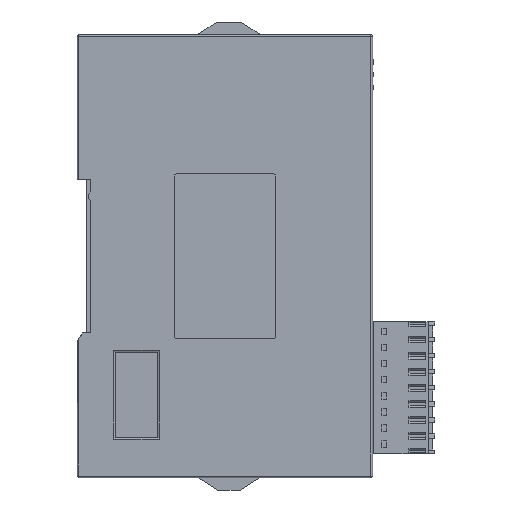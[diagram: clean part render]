
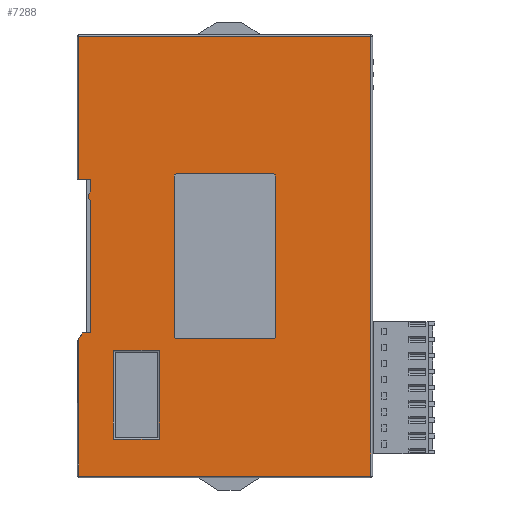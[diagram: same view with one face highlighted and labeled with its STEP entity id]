
A CAD part, left-side view. The second image highlights one B-rep face of the part: STEP entity #7288.
In plain terms, the highlighted planar face has unit normal (-1, 0, 0).
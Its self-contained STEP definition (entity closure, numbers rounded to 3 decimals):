
#7288=ADVANCED_FACE('',(#19565,#19567,#19569),#19571,.T.);
#19565=FACE_BOUND('',#19566,.T.);
#19566=EDGE_LOOP('',(#28255,#28256,#28257,#28258,#28259,#28260,#28261,#28262,#28263,
#28264,#28265));
#19567=FACE_BOUND('',#19568,.T.);
#19568=EDGE_LOOP('',(#28266,#28267,#28268,#28269,#28270,#28271,#28272,#28273));
#19569=FACE_BOUND('',#19570,.T.);
#19570=EDGE_LOOP('',(#28274,#28275,#28276,#28277));
#19571=PLANE('',#19572);
#19572=AXIS2_PLACEMENT_3D('',#19573,#19574,#19575);
#19573=CARTESIAN_POINT('',(-345.903,-44.348,173.566));
#19574=DIRECTION('',(-1.,0.,0.));
#19575=DIRECTION('',(0.,0.,1.));
#28255=ORIENTED_EDGE('',*,*,#34578,.F.);
#28256=ORIENTED_EDGE('',*,*,#34579,.F.);
#28257=ORIENTED_EDGE('',*,*,#34580,.T.);
#28258=ORIENTED_EDGE('',*,*,#34581,.T.);
#28259=ORIENTED_EDGE('',*,*,#34582,.T.);
#28260=ORIENTED_EDGE('',*,*,#34583,.T.);
#28261=ORIENTED_EDGE('',*,*,#34584,.T.);
#28262=ORIENTED_EDGE('',*,*,#34585,.F.);
#28263=ORIENTED_EDGE('',*,*,#34586,.F.);
#28264=ORIENTED_EDGE('',*,*,#34587,.F.);
#28265=ORIENTED_EDGE('',*,*,#33933,.F.);
#28266=ORIENTED_EDGE('',*,*,#34588,.F.);
#28267=ORIENTED_EDGE('',*,*,#34589,.F.);
#28268=ORIENTED_EDGE('',*,*,#34590,.F.);
#28269=ORIENTED_EDGE('',*,*,#34591,.F.);
#28270=ORIENTED_EDGE('',*,*,#34592,.F.);
#28271=ORIENTED_EDGE('',*,*,#34593,.F.);
#28272=ORIENTED_EDGE('',*,*,#34594,.F.);
#28273=ORIENTED_EDGE('',*,*,#34595,.F.);
#28274=ORIENTED_EDGE('',*,*,#34596,.F.);
#28275=ORIENTED_EDGE('',*,*,#34597,.F.);
#28276=ORIENTED_EDGE('',*,*,#34598,.F.);
#28277=ORIENTED_EDGE('',*,*,#34599,.F.);
#33933=EDGE_CURVE('',#40744,#40742,#40746,.T.);
#34578=EDGE_CURVE('',#41783,#40744,#41784,.T.);
#34579=EDGE_CURVE('',#41785,#41783,#41786,.T.);
#34580=EDGE_CURVE('',#41785,#41787,#41788,.T.);
#34581=EDGE_CURVE('',#41787,#41789,#41790,.T.);
#34582=EDGE_CURVE('',#41789,#41791,#41792,.T.);
#34583=EDGE_CURVE('',#41791,#41793,#41794,.T.);
#34584=EDGE_CURVE('',#41793,#41795,#41796,.T.);
#34585=EDGE_CURVE('',#41797,#41795,#41798,.T.);
#34586=EDGE_CURVE('',#41799,#41797,#41800,.T.);
#34587=EDGE_CURVE('',#40742,#41799,#41801,.T.);
#34588=EDGE_CURVE('',#41802,#41803,#41804,.T.);
#34589=EDGE_CURVE('',#41805,#41802,#41806,.T.);
#34590=EDGE_CURVE('',#41807,#41805,#41808,.T.);
#34591=EDGE_CURVE('',#41809,#41807,#41810,.T.);
#34592=EDGE_CURVE('',#41811,#41809,#41812,.T.);
#34593=EDGE_CURVE('',#41813,#41811,#41814,.T.);
#34594=EDGE_CURVE('',#41815,#41813,#41816,.T.);
#34595=EDGE_CURVE('',#41803,#41815,#41817,.T.);
#34596=EDGE_CURVE('',#41818,#41819,#41820,.T.);
#34597=EDGE_CURVE('',#41821,#41818,#41822,.T.);
#34598=EDGE_CURVE('',#41823,#41821,#41824,.T.);
#34599=EDGE_CURVE('',#41819,#41823,#41825,.T.);
#40742=VERTEX_POINT('',#51021);
#40744=VERTEX_POINT('',#51026);
#40746=LINE('',#51031,#51032);
#41783=VERTEX_POINT('',#55268);
#41784=LINE('',#55269,#55270);
#41785=VERTEX_POINT('',#55272);
#41786=LINE('',#55273,#55274);
#41787=VERTEX_POINT('',#55276);
#41788=LINE('',#55277,#55278);
#41789=VERTEX_POINT('',#55280);
#41790=LINE('',#55281,#55282);
#41791=VERTEX_POINT('',#55284);
#41792=CIRCLE('',#55285,2.);
#41793=VERTEX_POINT('',#55289);
#41794=LINE('',#55290,#55291);
#41795=VERTEX_POINT('',#55293);
#41796=LINE('',#55294,#55295);
#41797=VERTEX_POINT('',#55297);
#41798=LINE('',#55298,#55299);
#41799=VERTEX_POINT('',#55301);
#41800=LINE('',#55302,#55303);
#41801=LINE('',#55305,#55306);
#41802=VERTEX_POINT('',#55308);
#41803=VERTEX_POINT('',#55309);
#41804=LINE('',#55310,#55311);
#41805=VERTEX_POINT('',#55313);
#41806=CIRCLE('',#55314,0.5);
#41807=VERTEX_POINT('',#55318);
#41808=LINE('',#55319,#55320);
#41809=VERTEX_POINT('',#55322);
#41810=CIRCLE('',#55323,0.5);
#41811=VERTEX_POINT('',#55327);
#41812=LINE('',#55328,#55329);
#41813=VERTEX_POINT('',#55331);
#41814=CIRCLE('',#55332,0.5);
#41815=VERTEX_POINT('',#55336);
#41816=LINE('',#55337,#55338);
#41817=CIRCLE('',#55340,0.5);
#41818=VERTEX_POINT('',#55344);
#41819=VERTEX_POINT('',#55345);
#41820=LINE('',#55346,#55347);
#41821=VERTEX_POINT('',#55349);
#41822=LINE('',#55350,#55351);
#41823=VERTEX_POINT('',#55353);
#41824=LINE('',#55354,#55355);
#41825=LINE('',#55357,#55358);
#51021=CARTESIAN_POINT('',(-345.903,-120.48,183.998));
#51026=CARTESIAN_POINT('',(-345.903,-120.48,288.198));
#51031=CARTESIAN_POINT('',(-345.903,-120.48,288.198));
#51032=VECTOR('',#51033,1.);
#51033=DIRECTION('',(0.,0.,-1.));
#55268=CARTESIAN_POINT('',(-345.903,-51.28,288.198));
#55269=CARTESIAN_POINT('',(-345.903,-51.28,288.198));
#55270=VECTOR('',#55271,1.);
#55271=DIRECTION('',(0.,-1.,0.));
#55272=CARTESIAN_POINT('',(-345.903,-51.28,254.298));
#55273=CARTESIAN_POINT('',(-345.903,-51.28,254.298));
#55274=VECTOR('',#55275,1.);
#55275=DIRECTION('',(0.,0.,1.));
#55276=CARTESIAN_POINT('',(-345.903,-54.08,254.298));
#55277=CARTESIAN_POINT('',(-345.903,-51.28,254.298));
#55278=VECTOR('',#55279,1.);
#55279=DIRECTION('',(0.,-1.,0.));
#55280=CARTESIAN_POINT('',(-345.903,-54.08,251.62));
#55281=CARTESIAN_POINT('',(-345.903,-54.08,254.298));
#55282=VECTOR('',#55283,1.);
#55283=DIRECTION('',(0.,0.,-1.));
#55284=CARTESIAN_POINT('',(-345.903,-54.08,248.975));
#55285=AXIS2_PLACEMENT_3D('',#55286,#55287,#55288);
#55286=CARTESIAN_POINT('',(-345.903,-55.58,250.298));
#55287=DIRECTION('',(-1.,0.,0.));
#55288=DIRECTION('',(0.,0.75,0.661));
#55289=CARTESIAN_POINT('',(-345.903,-54.08,217.898));
#55290=CARTESIAN_POINT('',(-345.903,-54.08,248.975));
#55291=VECTOR('',#55292,1.);
#55292=DIRECTION('',(0.,0.,-1.));
#55293=CARTESIAN_POINT('',(-345.903,-52.08,217.898));
#55294=CARTESIAN_POINT('',(-345.903,-54.08,217.898));
#55295=VECTOR('',#55296,1.);
#55296=DIRECTION('',(0.,1.,0.));
#55297=CARTESIAN_POINT('',(-345.903,-51.28,216.564));
#55298=CARTESIAN_POINT('',(-345.903,-51.28,216.564));
#55299=VECTOR('',#55300,1.);
#55300=DIRECTION('',(0.,-0.515,0.857));
#55301=CARTESIAN_POINT('',(-345.903,-51.28,183.998));
#55302=CARTESIAN_POINT('',(-345.903,-51.28,183.998));
#55303=VECTOR('',#55304,1.);
#55304=DIRECTION('',(0.,0.,1.));
#55305=CARTESIAN_POINT('',(-345.903,-120.48,183.998));
#55306=VECTOR('',#55307,1.);
#55307=DIRECTION('',(0.,1.,0.));
#55308=CARTESIAN_POINT('',(-345.903,-97.38,255.598));
#55309=CARTESIAN_POINT('',(-345.903,-74.38,255.598));
#55310=CARTESIAN_POINT('',(-345.903,-97.38,255.598));
#55311=VECTOR('',#55312,1.);
#55312=DIRECTION('',(0.,1.,0.));
#55313=CARTESIAN_POINT('',(-345.903,-97.88,255.098));
#55314=AXIS2_PLACEMENT_3D('',#55315,#55316,#55317);
#55315=CARTESIAN_POINT('',(-345.903,-97.38,255.098));
#55316=DIRECTION('',(-1.,0.,0.));
#55317=DIRECTION('',(0.,-1.,0.));
#55318=CARTESIAN_POINT('',(-345.903,-97.88,217.098));
#55319=CARTESIAN_POINT('',(-345.903,-97.88,217.098));
#55320=VECTOR('',#55321,1.);
#55321=DIRECTION('',(0.,0.,1.));
#55322=CARTESIAN_POINT('',(-345.903,-97.38,216.598));
#55323=AXIS2_PLACEMENT_3D('',#55324,#55325,#55326);
#55324=CARTESIAN_POINT('',(-345.903,-97.38,217.098));
#55325=DIRECTION('',(-1.,0.,0.));
#55326=DIRECTION('',(0.,0.,-1.));
#55327=CARTESIAN_POINT('',(-345.903,-74.38,216.598));
#55328=CARTESIAN_POINT('',(-345.903,-74.38,216.598));
#55329=VECTOR('',#55330,1.);
#55330=DIRECTION('',(0.,-1.,0.));
#55331=CARTESIAN_POINT('',(-345.903,-73.88,217.098));
#55332=AXIS2_PLACEMENT_3D('',#55333,#55334,#55335);
#55333=CARTESIAN_POINT('',(-345.903,-74.38,217.098));
#55334=DIRECTION('',(-1.,0.,0.));
#55335=DIRECTION('',(0.,1.,0.));
#55336=CARTESIAN_POINT('',(-345.903,-73.88,255.098));
#55337=CARTESIAN_POINT('',(-345.903,-73.88,255.098));
#55338=VECTOR('',#55339,1.);
#55339=DIRECTION('',(0.,0.,-1.));
#55340=AXIS2_PLACEMENT_3D('',#55341,#55342,#55343);
#55341=CARTESIAN_POINT('',(-345.903,-74.38,255.098));
#55342=DIRECTION('',(-1.,0.,0.));
#55343=DIRECTION('',(0.,0.,1.));
#55344=CARTESIAN_POINT('',(-345.903,-70.34,192.748));
#55345=CARTESIAN_POINT('',(-345.903,-70.34,213.748));
#55346=CARTESIAN_POINT('',(-345.903,-70.34,192.748));
#55347=VECTOR('',#55348,1.);
#55348=DIRECTION('',(0.,0.,1.));
#55349=CARTESIAN_POINT('',(-345.903,-59.45,192.748));
#55350=CARTESIAN_POINT('',(-345.903,-59.45,192.748));
#55351=VECTOR('',#55352,1.);
#55352=DIRECTION('',(0.,-1.,0.));
#55353=CARTESIAN_POINT('',(-345.903,-59.45,213.748));
#55354=CARTESIAN_POINT('',(-345.903,-59.45,213.748));
#55355=VECTOR('',#55356,1.);
#55356=DIRECTION('',(0.,0.,-1.));
#55357=CARTESIAN_POINT('',(-345.903,-70.34,213.748));
#55358=VECTOR('',#55359,1.);
#55359=DIRECTION('',(0.,1.,0.));
